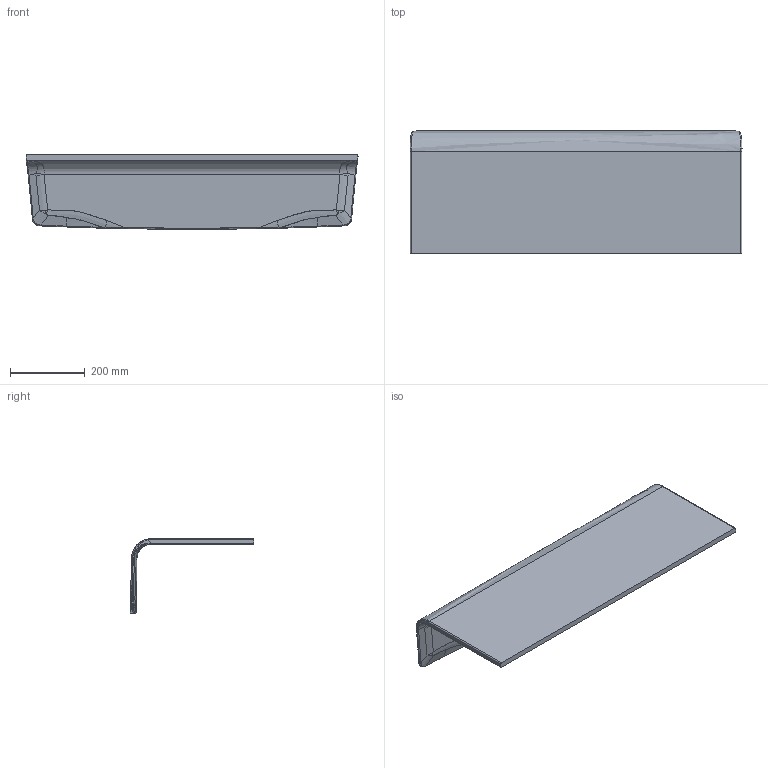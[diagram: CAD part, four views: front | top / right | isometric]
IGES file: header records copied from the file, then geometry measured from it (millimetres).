
Start section: SolidWorks IGES file using analytic representation for surfaces
Global section: file name: \\Logicserver\datos\01-VICCARBE\PRODUCTOS\53-SISTEMA\04-MODELADOS (PLANOS)\WEB\viccarbe-sistema-3D\IGS\Brazo tablero para asiento fino.IGS; native system: SolidWorks 2013; preprocessor: SolidWorks 2013; author: bdisenyo; date: 170120.134743; units: millimetre
Bounding box: 890 x 330.01 x 200.05 mm (x, y, z)
Surface area: 894515.3 mm2 (no closed solid volume)
Topology: 0 solids, 0 shells, 87 faces, 1024 edges, 1020 vertices
Faces by surface type: bspline 78, revolution 9
